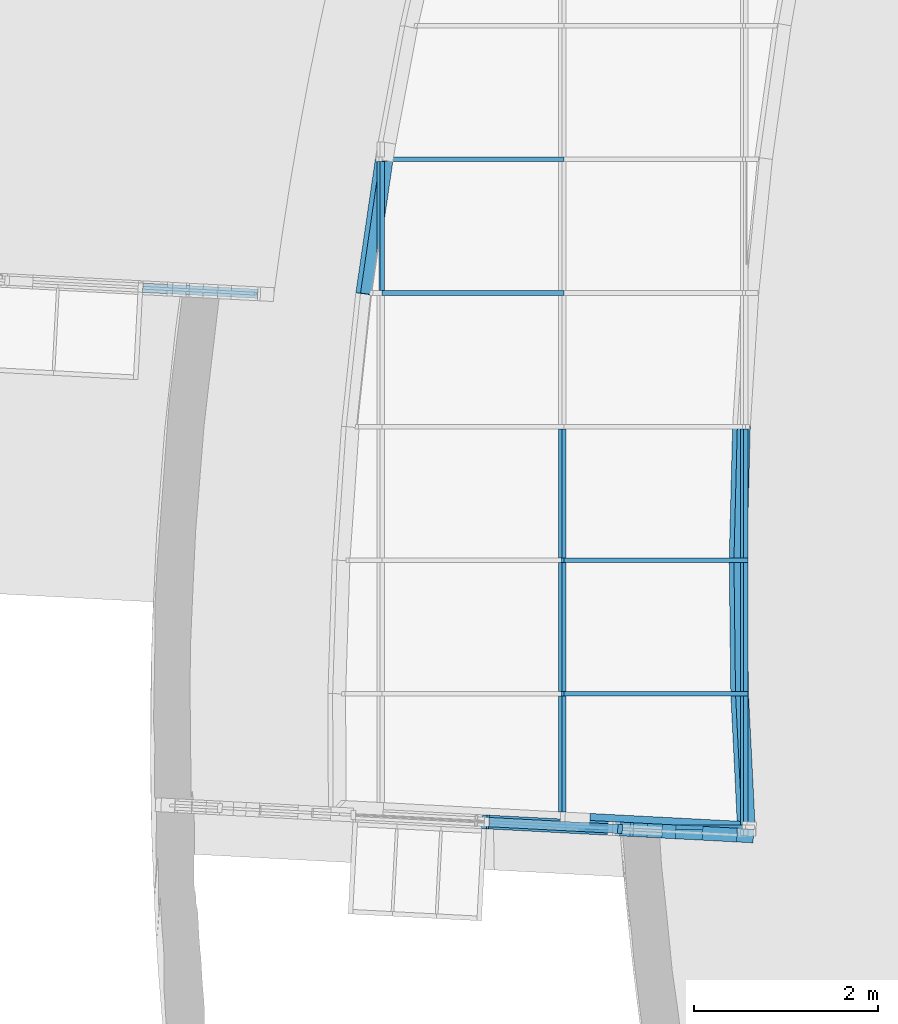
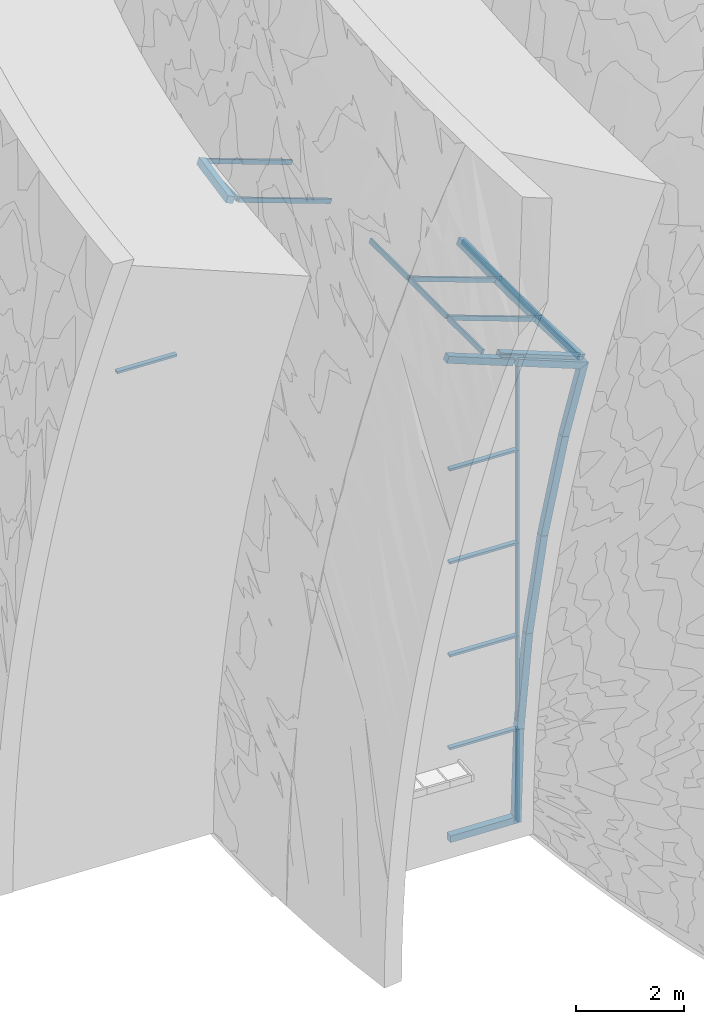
# One storey, part 10 of 82: 35 members, 2 elements without a shape of their own.
"""IFC2X3 building model written with IfcOpenShell, lengths in millimetres."""

from ifc_helpers import new_model, entity, si_unit, converted_unit, derived_unit, direction, frame, frame_2d, origin, origin_2d_with_axis, place, context, subcontext, project, spatial, polyline, rectangle, extrude, clip, halfspace, bounded_halfspace, source, transform, mapped, material, type_object, type_shapes, element, aggregate, save


model = new_model("IFC2X3")

# Units and contexts
model_context = context("Model", 3, precision=0.01, world=origin(), true_north=direction((6.12303176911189e-17, 1.0)))
body_context = subcontext(model_context, "Body", "Model", "MODEL_VIEW")
ifc_project = project(units=[si_unit("LENGTHUNIT", "METRE", prefix="MILLI"), si_unit("AREAUNIT", "SQUARE_METRE"), si_unit("VOLUMEUNIT", "CUBIC_METRE"), converted_unit("PLANEANGLEUNIT", "DEGREE", entity("IfcRatioMeasure", 0.0174532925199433), si_unit("PLANEANGLEUNIT", "RADIAN"), dimensions=[0, 0, 0, 0, 0, 0, 0]), si_unit("MASSUNIT", "GRAM", prefix="KILO"), derived_unit("MASSDENSITYUNIT", [(si_unit("MASSUNIT", "GRAM", prefix="KILO"), 1), (si_unit("LENGTHUNIT", "METRE"), -3)]), si_unit("TIMEUNIT", "SECOND"), si_unit("FREQUENCYUNIT", "HERTZ"), si_unit("THERMODYNAMICTEMPERATUREUNIT", "DEGREE_CELSIUS"), derived_unit("THERMALTRANSMITTANCEUNIT", [(si_unit("MASSUNIT", "GRAM", prefix="KILO"), 1), (si_unit("THERMODYNAMICTEMPERATUREUNIT", "KELVIN"), -1), (si_unit("TIMEUNIT", "SECOND"), -3)]), derived_unit("VOLUMETRICFLOWRATEUNIT", [(si_unit("LENGTHUNIT", "METRE"), 3), (si_unit("TIMEUNIT", "SECOND"), -1)]), si_unit("ELECTRICCURRENTUNIT", "AMPERE"), si_unit("ELECTRICVOLTAGEUNIT", "VOLT"), si_unit("POWERUNIT", "WATT"), si_unit("FORCEUNIT", "NEWTON", prefix="KILO"), si_unit("ILLUMINANCEUNIT", "LUX"), si_unit("LUMINOUSFLUXUNIT", "LUMEN"), si_unit("LUMINOUSINTENSITYUNIT", "CANDELA"), derived_unit("USERDEFINED", [(si_unit("MASSUNIT", "GRAM", prefix="KILO"), -1), (si_unit("LENGTHUNIT", "METRE"), -2), (si_unit("TIMEUNIT", "SECOND"), 3), (si_unit("LUMINOUSFLUXUNIT", "LUMEN"), 1)]), derived_unit("LINEARVELOCITYUNIT", [(si_unit("LENGTHUNIT", "METRE"), 1), (si_unit("TIMEUNIT", "SECOND"), -1)]), si_unit("PRESSUREUNIT", "PASCAL"), derived_unit("USERDEFINED", [(si_unit("LENGTHUNIT", "METRE"), -2), (si_unit("MASSUNIT", "GRAM", prefix="KILO"), 1), (si_unit("TIMEUNIT", "SECOND"), -2)])], contexts=[model_context])

# Site, building, storey
site_placement = place(None, origin())
site = spatial("IfcSite", under=ifc_project, at=site_placement, Name="表面", CompositionType="ELEMENT")
building_placement = place(site_placement, origin())
building = spatial("IfcBuilding", under=site, at=building_placement, CompositionType="ELEMENT")
storey_placement = place(building_placement, origin())
storey = spatial("IfcBuildingStorey", under=building, at=storey_placement, Name="1F", CompositionType="ELEMENT", Elevation=0.0)

# Curtain wall, members
curtain_wall_type = type_object("IfcCurtainWallType", Name="幕墙系统:1450 x 2100mm", PredefinedType="NOTDEFINED")
curtain_wall_1_placement = place(storey_placement, origin())
curtain_wall_1 = element("IfcCurtainWall", 1, at=curtain_wall_1_placement, inside=storey, type_object=curtain_wall_type, Name="幕墙系统:1450 x 2100mm", ObjectType="幕墙系统:1450 x 2100mm")
ifc_material_1 = material(Name="金属 - 铝")
member_type_1 = type_object("IfcMemberType", Name="50 x 100mm", PredefinedType="MEMBER")
shared_shape_1 = source(origin(), body_context, "Body", "SweptSolid", [
    extrude(rectangle(XDim=100.0, YDim=50.0, at=origin_2d_with_axis()), frame((0.0, 0.0, -1400.0), z_axis=(0.0, 0.0, 1.0), x_axis=(0.0, -1.0, 0.0)), (0.0, 0.0, 1.0), 1400.0),
])
type_shapes(member_type_1, [shared_shape_1])
placement_1 = place(building_placement, frame((0.0, 0.0, 9000.0)))
member_1_placement = place(placement_1, frame((-34783.270916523, -15971.8767198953, 980.343533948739), z_axis=(0.0, 1.0, 0.0), x_axis=(-0.93969262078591, 0.0, 0.342020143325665)))
member_1 = element("IfcMember", 2, at=member_1_placement, type_object=member_type_1, material=ifc_material_1, Name="矩形竖梃:50 x 100mm", ObjectType="50 x 100mm", context=body_context, shape_type="MappedRepresentation", body=[
    mapped(shared_shape_1, transform((0.0, 0.0, 0.0), scale=1.0)),
])
member_2_placement = place(placement_1, frame((-34783.270916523, -17421.8767198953, 980.343533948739), z_axis=(0.0, 1.0, 0.0), x_axis=(-0.93969262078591, 0.0, 0.342020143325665)))
member_2 = element("IfcMember", 3, at=member_2_placement, type_object=member_type_1, material=ifc_material_1, Name="矩形竖梃:50 x 100mm", ObjectType="50 x 100mm", context=body_context, shape_type="MappedRepresentation", body=[
    mapped(shared_shape_1, transform((0.0, 0.0, 0.0), scale=1.0)),
])
member_3_placement = place(placement_1, frame((-34783.270916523, -18871.8767198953, 980.343533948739), z_axis=(0.0, 1.0, 0.0), x_axis=(-0.93969262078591, 0.0, 0.342020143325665)))
member_3 = element("IfcMember", 4, at=member_3_placement, type_object=member_type_1, material=ifc_material_1, Name="矩形竖梃:50 x 100mm", ObjectType="50 x 100mm", context=body_context, shape_type="MappedRepresentation", body=[
    mapped(shared_shape_1, transform((0.0, 0.0, 0.0), scale=1.0)),
])
member_4_placement = place(placement_1, frame((-36756.6254201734, -15971.8767198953, 1698.58583493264), z_axis=(0.0, 1.0, 0.0), x_axis=(-0.93969262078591, 0.0, 0.342020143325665)))
member_4 = element("IfcMember", 5, at=member_4_placement, type_object=member_type_1, material=ifc_material_1, Name="矩形竖梃:50 x 100mm", ObjectType="50 x 100mm", context=body_context, shape_type="MappedRepresentation", body=[
    mapped(shared_shape_1, transform((0.0, 0.0, 0.0), scale=1.0)),
])
member_5_placement = place(placement_1, frame((-36756.6254201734, -17421.8767198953, 1698.58583493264), z_axis=(0.0, 1.0, 0.0), x_axis=(-0.93969262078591, 0.0, 0.342020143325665)))
member_5 = element("IfcMember", 6, at=member_5_placement, type_object=member_type_1, material=ifc_material_1, Name="矩形竖梃:50 x 100mm", ObjectType="50 x 100mm", context=body_context, shape_type="MappedRepresentation", body=[
    mapped(shared_shape_1, transform((0.0, 0.0, 0.0), scale=1.0)),
])
member_6_placement = place(placement_1, frame((-38729.9799238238, -13071.8767198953, 2416.82813591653), z_axis=(0.0, 1.0, 0.0), x_axis=(-0.93969262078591, 0.0, 0.342020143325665)))
member_6 = element("IfcMember", 7, at=member_6_placement, type_object=member_type_1, material=ifc_material_1, Name="矩形竖梃:50 x 100mm", ObjectType="50 x 100mm", context=body_context, shape_type="MappedRepresentation", body=[
    mapped(shared_shape_1, transform((0.0, 0.0, 0.0), scale=1.0)),
])
member_7_placement = place(storey_placement, frame((-36155.4040627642, -20314.2998350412, 2100.0), z_axis=(0.998629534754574, -0.0523359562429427, 0.0), x_axis=(0.0, 0.0, 1.0)))
member_7 = element("IfcMember", 8, at=member_7_placement, type_object=member_type_1, material=ifc_material_1, Name="矩形竖梃:50 x 100mm", ObjectType="50 x 100mm", context=body_context, shape_type="MappedRepresentation", body=[
    mapped(shared_shape_1, transform((0.0, 0.0, 0.0), scale=1.0)),
])
placement_2 = place(building_placement, frame((0.0, 0.0, 3000.0)))
member_8_placement = place(placement_2, frame((-36155.4040627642, -20314.2998350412, 1200.0), z_axis=(0.998629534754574, -0.0523359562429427, 0.0), x_axis=(0.0, 0.0, 1.0)))
member_8 = element("IfcMember", 9, at=member_8_placement, type_object=member_type_1, material=ifc_material_1, Name="矩形竖梃:50 x 100mm", ObjectType="50 x 100mm", context=body_context, shape_type="MappedRepresentation", body=[
    mapped(shared_shape_1, transform((0.0, 0.0, 0.0), scale=1.0)),
])
placement_3 = place(building_placement, frame((0.0, 0.0, 6000.0)))
member_9_placement = place(placement_3, frame((-36155.4040627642, -20314.2998350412, 300.0), z_axis=(0.998629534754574, -0.0523359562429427, 0.0), x_axis=(0.0, 0.0, 1.0)))
member_9 = element("IfcMember", 10, at=member_9_placement, type_object=member_type_1, material=ifc_material_1, Name="矩形竖梃:50 x 100mm", ObjectType="50 x 100mm", context=body_context, shape_type="MappedRepresentation", body=[
    mapped(shared_shape_1, transform((0.0, 0.0, 0.0), scale=1.0)),
])
member_10_placement = place(placement_3, frame((-36155.4040627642, -20314.2998350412, 2400.0), z_axis=(0.998629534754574, -0.0523359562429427, 0.0), x_axis=(0.0, 0.0, 1.0)))
member_10 = element("IfcMember", 11, at=member_10_placement, type_object=member_type_1, material=ifc_material_1, Name="矩形竖梃:50 x 100mm", ObjectType="50 x 100mm", context=body_context, shape_type="MappedRepresentation", body=[
    mapped(shared_shape_1, transform((0.0, 0.0, 0.0), scale=1.0)),
])

# Curtain wall, member
curtain_wall_2_placement = place(storey_placement, origin())
curtain_wall_2 = element("IfcCurtainWall", 12, at=curtain_wall_2_placement, inside=storey, type_object=curtain_wall_type, Name="幕墙系统:1450 x 2100mm", ObjectType="幕墙系统:1450 x 2100mm")
member_type_2 = type_object("IfcMemberType", Name="50 x 100mm", PredefinedType="MEMBER")
shared_shape_2 = source(origin(), body_context, "Body", "Clipping", [
    clip(extrude(rectangle(XDim=100.0, YDim=50.0, at=origin_2d_with_axis()), frame((0.0, 0.0, -1395.33313219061), z_axis=(0.0, 0.0, 1.0), x_axis=(0.0, -1.0, 0.0)), (0.0, 0.0, 1.0), 1247.33137944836), halfspace(frame((-2069.67903563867, 75.0, -580.344666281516), z_axis=(-0.202139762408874, 0.0, 0.979356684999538), x_axis=(0.979356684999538, 0.0, 0.202139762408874)), False)),
])
type_shapes(member_type_2, [shared_shape_2])
member_11_placement = place(placement_3, frame((-39918.5597847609, -14512.9677414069, 2400.0), z_axis=(0.998629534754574, -0.0523359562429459, 0.0), x_axis=(0.0, 0.0, 1.0)))
member_11 = element("IfcMember", 13, at=member_11_placement, type_object=member_type_2, material=ifc_material_1, Name="矩形竖梃:50 x 100mm", ObjectType="50 x 100mm", context=body_context, shape_type="MappedRepresentation", body=[
    mapped(shared_shape_2, transform((0.0, 0.0, 0.0), scale=1.0)),
])
aggregate(curtain_wall_2, [member_11])

# Member
member_type_3 = type_object("IfcMemberType", Name="50 x 100mm", PredefinedType="MEMBER")
shared_shape_3 = source(origin(), body_context, "Body", "SweptSolid", [
    extrude(rectangle(XDim=100.0, YDim=50.0, at=origin_2d_with_axis()), frame((0.0, 0.0, -2100.0), z_axis=(0.0, 0.0, 1.0), x_axis=(0.0, -1.0, 0.0)), (0.0, 0.0, 1.0), 2100.0),
])
type_shapes(member_type_3, [shared_shape_3])
member_12_placement = place(storey_placement, frame((-36130.4383243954, -20315.6082339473, 2100.0), z_axis=(0.0, 0.0, 1.0), x_axis=(-0.998629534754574, 0.0523359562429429, 0.0)))
member_12 = element("IfcMember", 14, at=member_12_placement, type_object=member_type_3, material=ifc_material_1, Name="矩形竖梃:50 x 100mm", ObjectType="50 x 100mm", context=body_context, shape_type="MappedRepresentation", body=[
    mapped(shared_shape_3, transform((0.0, 0.0, 0.0), scale=1.0)),
])

member_type_4 = type_object("IfcMemberType", Name="50 x 100mm", PredefinedType="MEMBER")
shared_shape_4 = source(origin(), body_context, "Body", "SweptSolid", [
    extrude(rectangle(XDim=100.0, YDim=50.0, at=origin_2d_with_axis()), frame((0.0, 0.0, -2100.0), z_axis=(0.0, 0.0, 1.0), x_axis=(0.0, -1.0, 0.0)), (0.0, 0.0, 1.0), 2100.0),
])
type_shapes(member_type_4, [shared_shape_4])
member_13_placement = place(placement_1, frame((-38729.9799238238, -13046.8767198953, 2416.82813591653), z_axis=(-0.93969262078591, 0.0, 0.342020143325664), x_axis=(0.0, -1.0, 0.0)))
member_13 = element("IfcMember", 15, at=member_13_placement, type_object=member_type_4, material=ifc_material_1, Name="矩形竖梃:50 x 100mm", ObjectType="50 x 100mm", context=body_context, shape_type="MappedRepresentation", body=[
    mapped(shared_shape_4, transform((0.0, 0.0, 0.0), scale=1.0)),
])

member_14_placement = place(placement_1, frame((-38729.9799238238, -14496.8767198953, 2416.82813591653), z_axis=(-0.939692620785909, 0.0, 0.342020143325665), x_axis=(0.0, -1.0, 0.0)))
member_14 = element("IfcMember", 16, at=member_14_placement, type_object=member_type_4, material=ifc_material_1, Name="矩形竖梃:50 x 100mm", ObjectType="50 x 100mm", context=body_context, shape_type="MappedRepresentation", body=[
    mapped(shared_shape_4, transform((0.0, 0.0, 0.0), scale=1.0)),
])

member_15_placement = place(storey_placement, frame((-36130.4383243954, -20315.6082339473, 4200.0), z_axis=(0.0, 0.0, 1.0), x_axis=(-0.998629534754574, 0.0523359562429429, 0.0)))
member_15 = element("IfcMember", 17, at=member_15_placement, type_object=member_type_4, material=ifc_material_1, Name="矩形竖梃:50 x 100mm", ObjectType="50 x 100mm", context=body_context, shape_type="MappedRepresentation", body=[
    mapped(shared_shape_4, transform((0.0, 0.0, 0.0), scale=1.0)),
])

member_16_placement = place(placement_2, frame((-36130.4383243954, -20315.6082339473, 3300.0), z_axis=(0.0, 0.0, 1.0), x_axis=(-0.998629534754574, 0.0523359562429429, 0.0)))
member_16 = element("IfcMember", 18, at=member_16_placement, type_object=member_type_4, material=ifc_material_1, Name="矩形竖梃:50 x 100mm", ObjectType="50 x 100mm", context=body_context, shape_type="MappedRepresentation", body=[
    mapped(shared_shape_4, transform((0.0, 0.0, 0.0), scale=1.0)),
])

member_17_placement = place(placement_3, frame((-36130.4383243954, -20315.6082339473, 2400.0), z_axis=(0.0, 0.0, 1.0), x_axis=(-0.998629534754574, 0.0523359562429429, 0.0)))
member_17 = element("IfcMember", 19, at=member_17_placement, type_object=member_type_4, material=ifc_material_1, Name="矩形竖梃:50 x 100mm", ObjectType="50 x 100mm", context=body_context, shape_type="MappedRepresentation", body=[
    mapped(shared_shape_4, transform((0.0, 0.0, 0.0), scale=1.0)),
])

member_type_5 = type_object("IfcMemberType", Name="50 x 100mm", PredefinedType="MEMBER")
shared_shape_5 = source(origin(), body_context, "Body", "SweptSolid", [
    extrude(rectangle(XDim=100.0, YDim=50.0, at=origin_2d_with_axis()), frame((0.0, 0.0, -2125.0), z_axis=(0.0, 0.0, 1.0), x_axis=(0.0, -1.0, 0.0)), (0.0, 0.0, 1.0), 2124.99999999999),
])
type_shapes(member_type_5, [shared_shape_5])
member_18_placement = place(placement_1, frame((-36756.6254201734, -17396.8767198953, 1698.58583493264), z_axis=(-0.93969262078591, 0.0, 0.342020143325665), x_axis=(0.0, -1.0, 0.0)))
member_18 = element("IfcMember", 20, at=member_18_placement, type_object=member_type_5, material=ifc_material_1, Name="矩形竖梃:50 x 100mm", ObjectType="50 x 100mm", context=body_context, shape_type="MappedRepresentation", body=[
    mapped(shared_shape_5, transform((0.0, 0.0, 0.0), scale=1.0)),
])

member_19_placement = place(placement_1, frame((-36756.6254201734, -18846.8767198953, 1698.58583493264), z_axis=(-0.939692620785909, 0.0, 0.342020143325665), x_axis=(0.0, -1.0, 0.0)))
member_19 = element("IfcMember", 21, at=member_19_placement, type_object=member_type_5, material=ifc_material_1, Name="矩形竖梃:50 x 100mm", ObjectType="50 x 100mm", context=body_context, shape_type="MappedRepresentation", body=[
    mapped(shared_shape_5, transform((0.0, 0.0, 0.0), scale=1.0)),
])

ifc_material_2 = material(Name="木质 - 木材")
member_type_6 = type_object("IfcMemberType", Name="200 x 150mm", PredefinedType="MEMBER")
shared_shape_6 = source(origin(), body_context, "Body", "SweptSolid", [
    extrude(rectangle(XDim=150.0, YDim=150.0, at=origin_2d_with_axis()), frame((-75.0, 0.0, -1400.0), z_axis=(0.0, 0.0, 1.0), x_axis=(0.0, -1.0, 0.0)), (0.0, 0.0, 1.0), 1400.0),
])
type_shapes(member_type_6, [shared_shape_6])
member_20_placement = place(storey_placement, frame((-37553.4854114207, -20241.0294963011, 0.0), z_axis=(-0.998629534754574, 0.0523359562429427, 0.0), x_axis=(0.0, 0.0, -1.0)))
member_20 = element("IfcMember", 22, at=member_20_placement, type_object=member_type_6, material=ifc_material_2, Name="矩形竖梃:200 x 150mm", ObjectType="200 x 150mm", context=body_context, shape_type="MappedRepresentation", body=[
    mapped(shared_shape_6, transform((0.0, 0.0, 0.0), scale=1.0)),
])

member_type_7 = type_object("IfcMemberType", Name="200 x 150mm", PredefinedType="MEMBER")
shared_shape_7 = source(origin(), body_context, "Body", "Clipping", [
    clip(clip(extrude(rectangle(XDim=150.0, YDim=150.0, at=origin_2d_with_axis()), frame((-75.0, 0.0, -1453.55151803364), z_axis=(0.0, 0.0, 1.0), x_axis=(0.0, -1.0, 0.0)), (0.0, 0.0, 1.0), 1456.56020725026), halfspace(frame((0.0, 304.8, -1450.53951953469), z_axis=(0.0200759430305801, 0.0, -0.999798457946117), x_axis=(0.999798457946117, 0.0, 0.0200759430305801)), False)), halfspace(frame((0.0, 304.8, 0.0), z_axis=(0.0200538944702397, 0.0, 0.999798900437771), x_axis=(0.999798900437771, 0.0, -0.0200538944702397)), False)),
])
type_shapes(member_type_7, [shared_shape_7])
member_21_placement = place(placement_1, frame((-34778.776142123, -17396.8767198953, 978.707569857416), z_axis=(-0.0256270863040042, -0.999628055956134, 0.00932749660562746), x_axis=(0.939343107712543, -0.0272717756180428, -0.341892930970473)))
member_21 = element("IfcMember", 23, at=member_21_placement, type_object=member_type_7, material=ifc_material_2, Name="矩形竖梃:200 x 150mm", ObjectType="200 x 150mm", context=body_context, shape_type="MappedRepresentation", body=[
    mapped(shared_shape_7, transform((0.0, 0.0, 0.0), scale=1.0)),
])

member_type_8 = type_object("IfcMemberType", Name="200 x 150mm", PredefinedType="MEMBER")
shared_shape_8 = source(origin(), body_context, "Body", "Clipping", [
    clip(clip(extrude(rectangle(XDim=150.0, YDim=150.0, at=origin_2d_with_axis()), frame((-75.0, 0.0, -1453.12813786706), z_axis=(0.0, 0.0, 1.0), x_axis=(0.0, -1.0, 0.0)), (0.0, 0.0, 1.0), 1456.13838464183), halfspace(frame((0.0, 304.800000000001, -1450.11944865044), z_axis=(0.02005389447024, 0.0, -0.999798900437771), x_axis=(0.999798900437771, 0.0, 0.02005389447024)), False)), halfspace(frame((0.0, 304.800000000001, 0.0), z_axis=(0.0200642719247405, 0.0, 0.999798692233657), x_axis=(0.999798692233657, 0.0, -0.0200642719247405)), False)),
])
type_shapes(member_type_8, [shared_shape_8])
member_22_placement = place(placement_1, frame((-34761.2863606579, -18846.8767198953, 972.341810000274), z_axis=(0.0120609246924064, -0.999917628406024, -0.00438981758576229), x_axis=(0.939615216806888, 0.0128349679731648, -0.341991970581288)))
member_22 = element("IfcMember", 24, at=member_22_placement, type_object=member_type_8, material=ifc_material_2, Name="矩形竖梃:200 x 150mm", ObjectType="200 x 150mm", context=body_context, shape_type="MappedRepresentation", body=[
    mapped(shared_shape_8, transform((0.0, 0.0, 0.0), scale=1.0)),
])

member_type_9 = type_object("IfcMemberType", Name="200 x 150mm", PredefinedType="MEMBER")
shared_shape_9 = source(origin(), body_context, "Body", "Clipping", [
    clip(clip(extrude(rectangle(XDim=150.0, YDim=150.0, at=frame_2d((0.0, 1.4210854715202e-14), x_axis=(1.0, 0.0))), frame((-75.0, 0.0, -1455.04658279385), z_axis=(0.0, 0.0, 1.0), x_axis=(0.0, -1.0, 0.0)), (0.0, 0.0, 1.0), 1456.65093679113), halfspace(frame((0.0, 304.8, -1452.03633601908), z_axis=(0.0200642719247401, 0.0, -0.999798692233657), x_axis=(0.999798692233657, 0.0, 0.0200642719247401)), False)), halfspace(frame((0.0, 304.8, 0.0), z_axis=(0.010695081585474, 0.0, 0.999942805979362), x_axis=(0.999942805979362, 0.0, -0.010695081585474)), False)),
])
type_shapes(member_type_9, [shared_shape_9])
member_23_placement = place(placement_1, frame((-34689.0489848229, -20296.8767198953, 946.049555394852), z_axis=(0.0497490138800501, -0.998597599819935, -0.0181071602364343), x_axis=(0.938374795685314, 0.052941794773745, -0.341540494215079)))
member_23 = element("IfcMember", 25, at=member_23_placement, type_object=member_type_9, material=ifc_material_2, Name="矩形竖梃:200 x 150mm", ObjectType="200 x 150mm", context=body_context, shape_type="MappedRepresentation", body=[
    mapped(shared_shape_9, transform((0.0, 0.0, 0.0), scale=1.0)),
])

member_type_10 = type_object("IfcMemberType", Name="200 x 150mm", PredefinedType="MEMBER")
shared_shape_10 = source(origin(), body_context, "Body", "Clipping", [
    clip(clip(extrude(rectangle(XDim=150.0, YDim=150.0, at=frame_2d((7.105427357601e-15, 0.0), x_axis=(1.0, 0.0))), frame((-75.0, 0.0, -1467.35092335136), z_axis=(0.0, 0.0, 1.0), x_axis=(0.0, -1.0, 0.0)), (0.0, 0.0, 1.0), 1467.35092335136), halfspace(frame((0.0, -304.800000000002, -1467.35092335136), z_axis=(-0.0200800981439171, 0.0, -0.999798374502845), x_axis=(-0.999798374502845, 0.0, 0.0200800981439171)), False)), halfspace(frame((0.0, -304.8, 0.0), z_axis=(-0.0113995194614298, 0.0, 0.999935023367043), x_axis=(-0.999935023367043, 0.0, -0.0113995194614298)), False)),
])
type_shapes(member_type_10, [shared_shape_10])
member_24_placement = place(placement_1, frame((-38762.0513408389, -13046.8767198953, 2428.50117708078), z_axis=(0.144081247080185, 0.988175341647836, -0.0524412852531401), x_axis=(-0.928581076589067, 0.153328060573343, 0.337975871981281)))
member_24 = element("IfcMember", 26, at=member_24_placement, type_object=member_type_10, material=ifc_material_2, Name="矩形竖梃:200 x 150mm", ObjectType="200 x 150mm", context=body_context, shape_type="MappedRepresentation", body=[
    mapped(shared_shape_10, transform((0.0, 0.0, 0.0), scale=1.0)),
])

member_type_11 = type_object("IfcMemberType", Name="200 x 150mm", PredefinedType="MEMBER")
shared_shape_11 = source(origin(), body_context, "Body", "SweptSolid", [
    extrude(rectangle(XDim=150.0, YDim=150.0, at=origin_2d_with_axis()), frame((-75.0, 0.0, -1816.1809015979), z_axis=(0.0, 0.0, 1.0), x_axis=(0.0, -1.0, 0.0)), (0.0, 0.0, 1.0), 1816.1809015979),
])
type_shapes(member_type_11, [shared_shape_11])
member_25_placement = place(placement_1, frame((-36487.8569043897, -20296.8767198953, 1600.76209527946), z_axis=(-0.93855517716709, 0.0491875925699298, 0.341606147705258), x_axis=(-0.046221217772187, -0.998789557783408, 0.0168231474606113)))
member_25 = element("IfcMember", 27, at=member_25_placement, type_object=member_type_11, material=ifc_material_2, Name="矩形竖梃:200 x 150mm", ObjectType="200 x 150mm", context=body_context, shape_type="MappedRepresentation", body=[
    mapped(shared_shape_11, transform((0.0, 0.0, 0.0), scale=1.0)),
])

member_type_12 = type_object("IfcMemberType", Name="50 x 100mm", PredefinedType="MEMBER")
shared_shape_12 = source(origin(), body_context, "Body", "Clipping", [
    clip(clip(extrude(rectangle(XDim=100.0, YDim=50.0, at=origin_2d_with_axis()), frame((0.0, 0.0, -1261.9638326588), z_axis=(0.0, 0.0, 1.0), x_axis=(0.0, -1.0, 0.0)), (0.0, 0.0, 1.0), 1261.9638326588), bounded_halfspace(frame((-7.37813888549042, 75.0, -1261.09600527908), z_axis=(0.0491875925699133, 0.0, -0.998789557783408), x_axis=(-0.998789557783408, 0.0, -0.0491875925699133)), False, frame((0.0, 0.0, -1261.9638326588), z_axis=(0.0, 0.0, 1.0), x_axis=(0.0, -1.0, 0.0)), polyline([(50.0, -7.37813888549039), (50.0, -25.0), (-50.0, -25.0), (-50.0, -7.37813888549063), (50.0, -7.37813888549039)]))), bounded_halfspace(frame((2092.62186111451, 75.0, -1157.67687800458), z_axis=(0.0491875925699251, 0.0, -0.998789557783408), x_axis=(-0.998789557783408, 0.0, -0.0491875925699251)), False, frame((0.0, 0.0, -1261.9638326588), z_axis=(0.0, 0.0, 1.0), x_axis=(0.0, -1.0, 0.0)), polyline([(-50.0, 25.0), (50.0, 25.0), (50.0, -7.37813888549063), (-50.0, -7.37813888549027), (-50.0, 25.0)]))),
])
type_shapes(member_type_12, [shared_shape_12])
member_26_placement = place(placement_1, frame((-36756.6254201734, -18871.8767198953, 1698.58583493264), z_axis=(0.0, 1.0, 0.0), x_axis=(-0.93969262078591, 0.0, 0.342020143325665)))
member_26 = element("IfcMember", 28, at=member_26_placement, type_object=member_type_12, material=ifc_material_1, Name="矩形竖梃:50 x 100mm", ObjectType="50 x 100mm", context=body_context, shape_type="MappedRepresentation", body=[
    mapped(shared_shape_12, transform((0.0, 0.0, 0.0), scale=1.0)),
])

member_type_13 = type_object("IfcMemberType", Name="50 x 100mm", PredefinedType="MEMBER")
shared_shape_13 = source(origin(), body_context, "Body", "SweptSolid", [
    extrude(rectangle(XDim=100.0, YDim=50.0, at=origin_2d_with_axis()), frame((0.0, 0.0, -1813.98251956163), z_axis=(0.0, 0.0, 1.0), x_axis=(0.0, -1.0, 0.0)), (0.0, 0.0, 1.0), 1813.98251956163),
])
type_shapes(member_type_13, [shared_shape_13])
member_27_placement = place(placement_1, frame((-36487.8569043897, -20296.8767198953, 1600.76209527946), z_axis=(-0.93969262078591, 0.0, 0.342020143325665), x_axis=(0.0, -1.0, 0.0)))
member_27 = element("IfcMember", 29, at=member_27_placement, type_object=member_type_13, material=ifc_material_1, Name="矩形竖梃:50 x 100mm", ObjectType="50 x 100mm", context=body_context, shape_type="MappedRepresentation", body=[
    mapped(shared_shape_13, transform((0.0, 0.0, 0.0), scale=1.0)),
])

member_type_14 = type_object("IfcMemberType", Name="200 x 150mm", PredefinedType="MEMBER")
shared_shape_14 = source(origin(), body_context, "Body", "Clipping", [
    clip(extrude(rectangle(XDim=150.0, YDim=150.0, at=origin_2d_with_axis()), frame((-75.0, 0.0, -1542.81054606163), z_axis=(0.0, 0.0, 1.0), x_axis=(0.0, -1.0, 0.0)), (0.0, 0.0, 1.0), 1542.81054606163), halfspace(frame((0.0, -304.8, 0.0), z_axis=(-0.674330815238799, 0.0, 0.738429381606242), x_axis=(-0.738429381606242, 0.0, -0.674330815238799)), False)),
])
type_shapes(member_type_14, [shared_shape_14])
member_28_placement = place(placement_1, frame((-34682.4254990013, -20391.4953704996, 943.638803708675), z_axis=(0.93855517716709, -0.0491875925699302, -0.341606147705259), x_axis=(0.341137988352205, -0.0178782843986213, 0.939843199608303)))
member_28 = element("IfcMember", 30, at=member_28_placement, type_object=member_type_14, material=ifc_material_2, Name="矩形竖梃:200 x 150mm", ObjectType="200 x 150mm", context=body_context, shape_type="MappedRepresentation", body=[
    mapped(shared_shape_14, transform((0.0, 0.0, 0.0), scale=1.0)),
])

member_type_15 = type_object("IfcMemberType", Name="200 x 150mm", PredefinedType="MEMBER")
shared_shape_15 = source(origin(), body_context, "Body", "Clipping", [
    clip(extrude(rectangle(XDim=150.0, YDim=150.0, at=origin_2d_with_axis()), frame((-75.0, 0.0, -2105.2870925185), z_axis=(0.0, 0.0, 1.0), x_axis=(0.0, -1.0, 0.0)), (0.0, 0.0, 1.0), 2105.2870925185), halfspace(frame((0.0, 304.8, -2100.89638657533), z_axis=(0.0292588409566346, 0.0, -0.999571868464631), x_axis=(0.999571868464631, 0.0, 0.0292588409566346)), False)),
])
type_shapes(member_type_15, [shared_shape_15])
member_29_placement = place(storey_placement, frame((-36082.5035035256, -20318.1203914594, 0.0), z_axis=(-0.0291687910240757, 0.00152867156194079, -0.999573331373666), x_axis=(0.998203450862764, -0.052313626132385, -0.0292088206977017)))
member_29 = element("IfcMember", 31, at=member_29_placement, type_object=member_type_15, material=ifc_material_2, Name="矩形竖梃:200 x 150mm", ObjectType="200 x 150mm", context=body_context, shape_type="MappedRepresentation", body=[
    mapped(shared_shape_15, transform((0.0, 0.0, 0.0), scale=1.0)),
])

member_type_16 = type_object("IfcMemberType", Name="200 x 150mm", PredefinedType="MEMBER")
shared_shape_16 = source(origin(), body_context, "Body", "SweptSolid", [
    extrude(rectangle(XDim=150.0, YDim=150.0, at=origin_2d_with_axis()), frame((-75.0, 0.0, -1456.95837622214), z_axis=(0.0, 0.0, 1.0), x_axis=(0.0, -1.0, 0.0)), (0.0, 0.0, 1.0), 1456.95837622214),
])
type_shapes(member_type_16, [shared_shape_16])
member_30_placement = place(placement_1, frame((-36211.0153228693, -20311.385372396, 1500.0), z_axis=(0.93855517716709, -0.0491875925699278, -0.34160614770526), x_axis=(0.341137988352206, -0.0178782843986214, 0.939843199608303)))
member_30 = element("IfcMember", 32, at=member_30_placement, type_object=member_type_16, material=ifc_material_2, Name="矩形竖梃:200 x 150mm", ObjectType="200 x 150mm", context=body_context, shape_type="MappedRepresentation", body=[
    mapped(shared_shape_16, transform((0.0, 0.0, 0.0), scale=1.0)),
])

member_type_17 = type_object("IfcMemberType", Name="200 x 150mm", PredefinedType="MEMBER")
shared_shape_17 = source(origin(), body_context, "Body", "Clipping", [
    clip(clip(extrude(rectangle(XDim=150.0, YDim=150.0, at=origin_2d_with_axis()), frame((-75.0, 0.0, -2112.52258944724), z_axis=(0.0, 0.0, 1.0), x_axis=(0.0, -1.0, 0.0)), (0.0, 0.0, 1.0), 2116.91329539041), halfspace(frame((0.0, 304.8, -2108.10904879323), z_axis=(0.0294108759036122, 0.0, -0.999567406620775), x_axis=(0.999567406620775, 0.0, 0.0294108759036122)), False)), halfspace(frame((0.0, 304.8, 0.0), z_axis=(0.029258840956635, 0.0, 0.999571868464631), x_axis=(0.999571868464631, 0.0, -0.029258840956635)), False)),
])
type_shapes(member_type_17, [shared_shape_17])
member_31_placement = place(storey_placement, frame((-36021.2228958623, -20321.3319720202, 2100.0), z_axis=(-0.0875063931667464, 0.00458601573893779, -0.996153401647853), x_axis=(0.994788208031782, -0.0521346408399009, -0.0876264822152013)))
member_31 = element("IfcMember", 33, at=member_31_placement, type_object=member_type_17, material=ifc_material_2, Name="矩形竖梃:200 x 150mm", ObjectType="200 x 150mm", context=body_context, shape_type="MappedRepresentation", body=[
    mapped(shared_shape_17, transform((0.0, 0.0, 0.0), scale=1.0)),
])

member_type_18 = type_object("IfcMemberType", Name="200 x 150mm", PredefinedType="MEMBER")
shared_shape_18 = source(origin(), body_context, "Body", "Clipping", [
    clip(clip(extrude(rectangle(XDim=150.0, YDim=150.0, at=frame_2d((0.0, -4.9737991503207e-14), x_axis=(1.0, 0.0))), frame((-75.0, 0.0, -2127.21275114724), z_axis=(0.0, 0.0, 1.0), x_axis=(0.0, -1.0, 0.0)), (0.0, 0.0, 1.0), 2131.62629180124), halfspace(frame((0.0, 304.800000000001, -2122.7603563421), z_axis=(0.0296695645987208, 0.0, -0.999559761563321), x_axis=(0.999559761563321, 0.0, 0.0296695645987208)), False)), halfspace(frame((0.0, 304.799999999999, 0.0), z_axis=(0.0294108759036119, 0.0, 0.999567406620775), x_axis=(0.999567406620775, 0.0, -0.0294108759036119)), False)),
])
type_shapes(member_type_18, [shared_shape_18])
member_32_placement = place(placement_2, frame((-35836.7498766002, -20330.9997932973, 1200.0), z_axis=(-0.145844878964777, 0.00764340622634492, -0.989277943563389), x_axis=(0.987922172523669, -0.0517748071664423, -0.146045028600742)))
member_32 = element("IfcMember", 34, at=member_32_placement, type_object=member_type_18, material=ifc_material_2, Name="矩形竖梃:200 x 150mm", ObjectType="200 x 150mm", context=body_context, shape_type="MappedRepresentation", body=[
    mapped(shared_shape_18, transform((0.0, 0.0, 0.0), scale=1.0)),
])

member_type_19 = type_object("IfcMemberType", Name="200 x 150mm", PredefinedType="MEMBER")
shared_shape_19 = source(origin(), body_context, "Body", "Clipping", [
    clip(clip(extrude(rectangle(XDim=150.0, YDim=150.0, at=origin_2d_with_axis()), frame((-75.0, 0.0, -2149.22531552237), z_axis=(0.0, 0.0, 1.0), x_axis=(0.0, -1.0, 0.0)), (0.0, 0.0, 1.0), 2153.67771032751), halfspace(frame((0.0, 304.800000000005, -2145.32232684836), z_axis=(0.0260111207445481, 0.0, -0.999661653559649), x_axis=(0.999661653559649, 0.0, 0.0260111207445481)), False)), halfspace(frame((0.0, 304.800000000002, 0.0), z_axis=(0.0296695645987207, 0.0, 0.999559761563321), x_axis=(0.999559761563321, 0.0, -0.0296695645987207)), False)),
])
type_shapes(member_type_19, [shared_shape_19])
member_33_placement = place(placement_3, frame((-35527.1561493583, -20347.224913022, 300.0), z_axis=(-0.20418474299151, 0.0107008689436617, -0.978873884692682), x_axis=(0.977532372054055, -0.0512303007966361, -0.20446495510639)))
member_33 = element("IfcMember", 35, at=member_33_placement, type_object=member_type_19, material=ifc_material_2, Name="矩形竖梃:200 x 150mm", ObjectType="200 x 150mm", context=body_context, shape_type="MappedRepresentation", body=[
    mapped(shared_shape_19, transform((0.0, 0.0, 0.0), scale=1.0)),
])

member_type_20 = type_object("IfcMemberType", Name="200 x 150mm", PredefinedType="MEMBER")
shared_shape_20 = source(origin(), body_context, "Body", "Clipping", [
    clip(clip(extrude(rectangle(XDim=150.0, YDim=150.0, at=origin_2d_with_axis()), frame((-75.0, 0.0, -1596.45564127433), z_axis=(0.0, 0.0, 1.0), x_axis=(0.0, -1.0, 0.0)), (0.0, 0.0, 1.0), 1600.35862994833), halfspace(frame((0.0, -304.799999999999, -1596.45564127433), z_axis=(-0.674330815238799, 0.0, -0.738429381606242), x_axis=(-0.738429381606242, 0.0, 0.674330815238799)), False)), halfspace(frame((0.0, 304.800000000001, 0.0), z_axis=(0.0260111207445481, 0.0, 0.999661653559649), x_axis=(0.999661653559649, 0.0, -0.0260111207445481)), False)),
])
type_shapes(member_type_20, [shared_shape_20])
member_34_placement = place(placement_3, frame((-35089.1140614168, -20370.1817260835, 2400.0), z_axis=(-0.254744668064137, 0.0133506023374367, -0.966916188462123), x_axis=(0.965591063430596, -0.0506044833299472, -0.255094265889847)))
member_34 = element("IfcMember", 36, at=member_34_placement, type_object=member_type_20, material=ifc_material_2, Name="矩形竖梃:200 x 150mm", ObjectType="200 x 150mm", context=body_context, shape_type="MappedRepresentation", body=[
    mapped(shared_shape_20, transform((0.0, 0.0, 0.0), scale=1.0)),
])

member_type_21 = type_object("IfcMemberType", Name="50 x 100mm", PredefinedType="MEMBER")
shared_shape_21 = source(origin(), body_context, "Body", "Clipping", [
    clip(extrude(rectangle(XDim=100.0, YDim=50.0, at=origin_2d_with_axis()), frame((0.0, 0.0, -2070.67237098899), z_axis=(0.0, 0.0, 1.0), x_axis=(0.0, -1.0, 0.0)), (0.0, 0.0, 1.0), 1920.15806565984), halfspace(frame((-1398.75907784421, 75.0, -668.010047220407), z_axis=(-0.341606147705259, 0.0, 0.939843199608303), x_axis=(0.939843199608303, 0.0, 0.341606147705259)), False)),
])
type_shapes(member_type_21, [shared_shape_21])
member_35_placement = place(placement_3, frame((-36130.4383243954, -20315.6082339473, 4470.67237098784), z_axis=(0.0, 0.0, 1.0), x_axis=(-0.998629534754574, 0.0523359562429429, 0.0)))
member_35 = element("IfcMember", 37, at=member_35_placement, type_object=member_type_21, material=ifc_material_1, Name="矩形竖梃:50 x 100mm", ObjectType="50 x 100mm", context=body_context, shape_type="MappedRepresentation", body=[
    mapped(shared_shape_21, transform((0.0, 0.0, 0.0), scale=1.0)),
])

aggregate(curtain_wall_1, [member_21, member_22, member_23, member_24, member_25, member_1, member_2, member_3, member_4, member_5, member_26, member_6, member_27, member_18, member_19, member_13, member_14, member_28, member_29, member_20, member_30, member_31, member_32, member_33, member_34, member_7, member_8, member_9, member_10, member_35, member_12, member_15, member_16, member_17])

save(model, "model.ifc")
